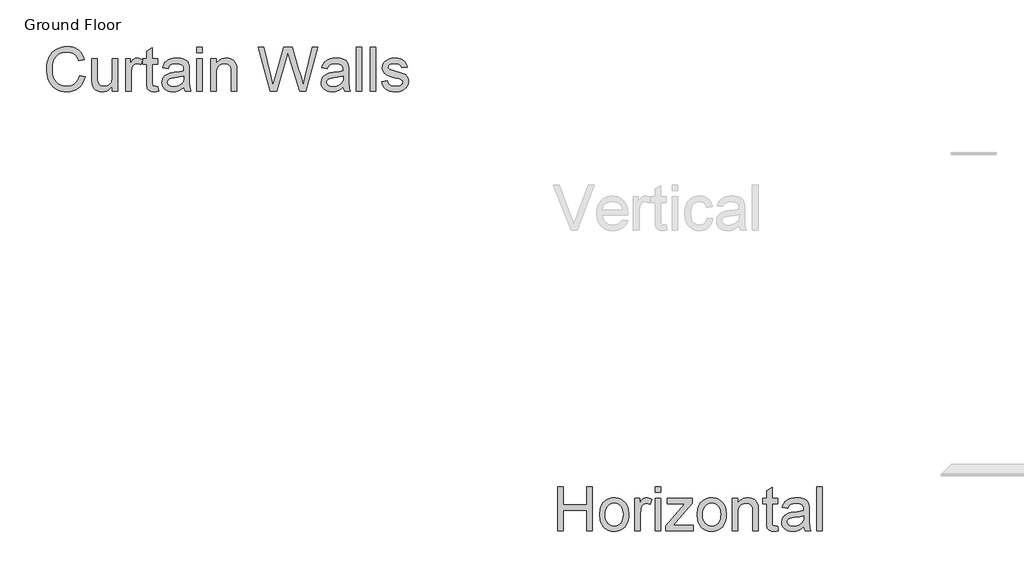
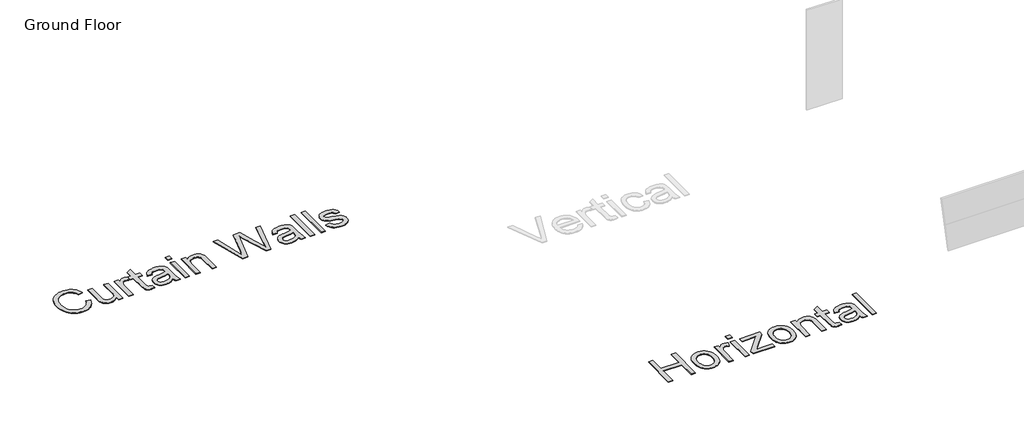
# One storey, part 4 of 9: 2 proxies.
"""IFC4 building model written with IfcOpenShell, lengths in millimetres."""

from ifc_helpers import new_model, si_unit, origin, origin_with_axes, place, context, project, spatial, polyline, outline, extrude, element, save

model = new_model("IFC4")

# Units and contexts
model_context = context("Model", 3, world=origin())
ifc_project = project(units=[si_unit("LENGTHUNIT", "METRE", prefix="MILLI")], contexts=[model_context])

# Site, building, storey
site = spatial("IfcSite", under=ifc_project)
building = spatial("IfcBuilding", under=site)
storey = spatial("IfcBuildingStorey", under=building, Name="Ground Floor", Elevation=0.0)

# Proxies
placement = place(None, origin())
element("IfcBuildingElementProxy", 1, Name="1200mm Arial", ObjectType="1200mm Arial", at=placement, inside=storey, context=model_context, shape_type="SweptSolid", body=[
    extrude(outline(polyline([(-30178.9270845, 12481.7519145), (-30032.0179936, 12443.8769145), (-30061.0877734, 12352.5160303), (-30079.2406942, 12311.1597403), (-30099.8056356, 12272.6862185), (-30122.7825976, 12237.0954647), (-30148.1715802, 12204.3874791), (-30175.9725834, 12174.5622616), (-30206.1856072, 12147.6198122), (-30238.48337, 12123.7125635), (-30272.5385902, 12102.9929479), (-30308.3512677, 12085.4609654), (-30345.9214027, 12071.1166162), (-30385.248995, 12059.9599001), (-30426.3340447, 12051.9908172), (-30469.1765518, 12047.2093674), (-30513.7765163, 12045.6155509), (-30603.3620099, 12050.439592), (-30684.1781498, 12064.9117156), (-30756.2249361, 12089.0319216), (-30819.5023686, 12122.8002099), (-30874.8802095, 12165.71445), (-30923.2282209, 12217.2725111), (-30964.5464027, 12277.4743932), (-30998.8347549, 12346.3200963), (-31025.7615128, 12420.8327028), (-31044.9949112, 12498.0352952), (-31056.5349503, 12577.9278733), (-31060.3816299, 12660.5104372), (-31056.0328196, 12749.1185693), (-31042.9863885, 12831.8804656), (-31021.2423366, 12908.7961261), (-30990.800664, 12979.8655509), (-30952.3428338, 13043.9141126), (-30906.5503089, 13099.7671844), (-30853.4230895, 13147.424766), (-30792.9611754, 13186.8868577), (-30727.2179226, 13217.8306609), (-30658.2466868, 13239.9333776), (-30586.047468, 13253.1950075), (-30510.6202663, 13257.6155509), (-30426.5940767, 13251.8948477), (-30349.5439169, 13234.7327384), (-30313.6348482, 13221.8611563), (-30279.4697869, 13206.1292227), (-30247.0487331, 13187.5369376), (-30216.3716868, 13166.0843009), (-30187.6986798, 13142.0358278), (-30161.2897443, 13115.6560338), (-30137.1448801, 13086.9449187), (-30115.2640873, 13055.9024827), (-30078.2947159, 12986.8236474), (-30050.3816299, 12908.4195281), (-30197.2907209, 12873.4138463), (-30220.4245987, 12931.1857746), (-30248.2211186, 12980.5470139), (-30280.6802805, 13021.4975643), (-30317.8020845, 13054.0374259), (-30359.8017294, 13078.8301283), (-30406.894414, 13096.5392014), (-30459.0801385, 13107.1646453), (-30516.3589027, 13110.7064599), (-30582.2635547, 13106.7790807), (-30642.5371697, 13094.9969429), (-30697.1797478, 13075.3600466), (-30746.191289, 13047.8683918), (-30788.9530966, 13013.7593719), (-30824.8464737, 12974.2703804), (-30853.8714204, 12929.4014173), (-30876.0279368, 12879.1524827), (-30892.4099503, 12825.8010977), (-30904.1113885, 12771.6247838), (-30911.1322514, 12716.6235409), (-30913.472539, 12660.797369), (-30910.7018537, 12590.6425395), (-30902.3897976, 12525.078619), (-30888.5363707, 12464.1056077), (-30869.1415731, 12407.7235054), (-30843.8915731, 12357.0531396), (-30812.472539, 12313.2153378), (-30774.8844709, 12276.2100999), (-30731.1273686, 12246.0374259), (-30683.326321, 12222.6255828), (-30633.6064169, 12205.9028378), (-30581.9676562, 12195.8691908), (-30528.410039, 12192.5246418), (-30464.5408096, 12197.0796844), (-30405.7825532, 12210.7448122), (-30352.1352699, 12233.5200253), (-30303.5989595, 12265.4053236), (-30261.3213494, 12306.2572412), (-30226.4501669, 12355.9323122), (-30198.9854119, 12414.4305366), (-30178.9270845, 12481.7519145)])), origin_with_axes(), (0.0, 0.0, 1.0), 20.0),
    extrude(outline(polyline([(-29297.472539, 12063.9791872), (-29297.472539, 12212.3229372), (-29322.9556711, 12173.2508935), (-29350.6266584, 12139.3884557), (-29380.4855007, 12110.7356236), (-29412.5321981, 12087.2923974), (-29446.7667507, 12069.0587771), (-29483.1891584, 12056.0347625), (-29521.7994211, 12048.2203538), (-29562.597539, 12045.6155509), (-29598.9930469, 12047.4447412), (-29634.1511612, 12052.9323122), (-29668.0718821, 12062.0782639), (-29700.7552095, 12074.8825963), (-29730.7575177, 12090.4486474), (-29756.6351811, 12107.8797554), (-29778.3881996, 12127.1759202), (-29796.0165731, 12148.3371418), (-29810.4259304, 12171.6682852), (-29822.5218998, 12197.4742156), (-29839.7736754, 12256.5104372), (-29846.2296413, 12312.1752099), (-29848.3816299, 12393.0899827), (-29848.3816299, 12927.0700963), (-29701.472539, 12927.0700963), (-29701.472539, 12462.2405509), (-29699.2488174, 12369.2746418), (-29692.5776527, 12312.4621418), (-29683.7813991, 12285.9837149), (-29671.1653657, 12262.5001389), (-29654.7295525, 12242.0114138), (-29634.4739595, 12224.5175395), (-29611.0083167, 12210.5206467), (-29584.9423544, 12200.5228662), (-29556.2760724, 12194.5241979), (-29525.0094709, 12192.5246418), (-29492.8103409, 12194.569031), (-29461.6334055, 12200.7021986), (-29431.4786647, 12210.9241446), (-29402.3461186, 12225.234869), (-29375.813892, 12243.0694749), (-29353.4601101, 12263.8630651), (-29335.2847727, 12287.6156396), (-29321.2878799, 12314.3271986), (-29310.8686683, 12345.7013996), (-29303.4263743, 12383.4419003), (-29298.9609978, 12427.5487007), (-29297.472539, 12478.0218009), (-29297.472539, 12927.0700963), (-29150.5634481, 12927.0700963), (-29150.5634481, 12063.9791872), (-29297.472539, 12063.9791872)])), origin_with_axes(), (0.0, 0.0, 1.0), 20.0),
    extrude(outline(polyline([(-28948.5634481, 12063.9791872), (-28948.5634481, 12927.0700963), (-28820.0179936, 12927.0700963), (-28820.0179936, 12799.3854372), (-28795.8081214, 12840.2014884), (-28772.5307777, 12873.4138463), (-28750.1859623, 12899.0225111), (-28728.7736754, 12917.0274827), (-28707.325522, 12929.455217), (-28684.8731072, 12938.3321702), (-28661.4164311, 12943.658342), (-28636.9554936, 12945.4337327), (-28600.5151527, 12942.600281), (-28563.7878799, 12934.0999259), (-28526.7736754, 12919.9326673), (-28489.472539, 12900.0985054), (-28538.5378799, 12768.3968009), (-28564.3617436, 12781.5777312), (-28590.1856072, 12790.9926815), (-28616.0094709, 12796.6416517), (-28641.8333345, 12798.5246418), (-28664.3485156, 12796.7133847), (-28685.6980362, 12791.2796134), (-28705.8818963, 12782.2233278), (-28724.9000959, 12769.5445281), (-28742.0353054, 12753.6556787), (-28756.5701953, 12734.969244), (-28768.5047656, 12713.4852241), (-28777.8390163, 12689.203619), (-28788.258228, 12649.1048974), (-28795.700522, 12607.141119), (-28801.6543572, 12517.6183918), (-28801.6543572, 12063.9791872), (-28948.5634481, 12063.9791872)])), origin_with_axes(), (0.0, 0.0, 1.0), 20.0),
    extrude(outline(polyline([(-28085.472539, 12186.4990736), (-28067.1089027, 12059.6752099), (-28125.2843288, 12049.1304656), (-28177.003789, 12045.6155509), (-28214.502191, 12047.1398761), (-28247.5172834, 12051.712852), (-28276.049066, 12059.3344784), (-28300.097539, 12070.0047554), (-28320.2903657, 12083.1498193), (-28337.2552095, 12098.1958065), (-28350.9920703, 12115.142717), (-28361.5009481, 12133.9905509), (-28369.2839737, 12159.2584841), (-28374.8432777, 12195.4656929), (-28379.2907209, 12300.6979372), (-28379.2907209, 12780.1610054), (-28489.472539, 12780.1610054), (-28489.472539, 12927.0700963), (-28379.2907209, 12927.0700963), (-28379.2907209, 13136.8172554), (-28232.3816299, 13223.1837327), (-28232.3816299, 12927.0700963), (-28085.472539, 12927.0700963), (-28085.472539, 12780.1610054), (-28232.3816299, 12780.1610054), (-28232.3816299, 12305.0019145), (-28230.4448402, 12256.6539031), (-28224.6344709, 12229.2519145), (-28214.4842578, 12214.0803946), (-28199.5279368, 12202.4237895), (-28178.3308487, 12194.9994287), (-28149.4583345, 12192.5246418), (-28085.472539, 12186.4990736)])), origin_with_axes(), (0.0, 0.0, 1.0), 20.0),
    extrude(outline(polyline([(-27387.6543572, 12174.1610054), (-27422.4896733, 12141.4687114), (-27457.8450532, 12113.9770565), (-27493.7204971, 12091.6860409), (-27530.1160049, 12074.5956645), (-27567.4440412, 12061.9168648), (-27606.1170703, 12052.8605793), (-27646.1350923, 12047.426808), (-27687.4981072, 12045.6155509), (-27752.9095951, 12049.9733278), (-27810.2690589, 12063.0466588), (-27859.5764986, 12084.8355437), (-27900.831914, 12115.3399827), (-27933.407642, 12152.6231858), (-27956.6760192, 12194.7483634), (-27970.6370454, 12241.7155153), (-27975.2907209, 12293.5246418), (-27973.5332635, 12324.6746773), (-27968.2608913, 12354.4259202), (-27959.4736044, 12382.7783705), (-27947.1714027, 12409.7320281), (-27932.0088494, 12434.6950963), (-27914.6405078, 12457.0757781), (-27895.0663778, 12476.8740736), (-27873.2864595, 12494.0899827), (-27824.6873828, 12522.0658349), (-27770.4214027, 12542.2945281), (-27717.5542152, 12553.556602), (-27643.3106072, 12564.3882781), (-27493.1018004, 12587.6297554), (-27435.1057067, 12600.7568861), (-27388.5151527, 12614.8882781), (-27387.6543572, 12647.5985054), (-27390.1829439, 12683.2139173), (-27397.7687038, 12713.1624259), (-27410.4116371, 12737.444031), (-27428.1117436, 12756.0587327), (-27458.7058487, 12774.6375679), (-27495.9711186, 12787.9081645), (-27539.9075532, 12795.8705224), (-27590.5151527, 12798.5246418), (-27637.5719709, 12796.7582178), (-27678.0293572, 12791.4589457), (-27711.8873118, 12782.6268257), (-27739.1458345, 12770.2618577), (-27761.5444496, 12753.3956467), (-27780.8226811, 12731.059798), (-27796.9805291, 12703.2543115), (-27810.0179936, 12669.9791872), (-27956.9270845, 12688.3428236), (-27945.7457102, 12730.6652668), (-27931.4260192, 12768.6837327), (-27913.9680113, 12802.3982213), (-27893.3716868, 12831.8087327), (-27868.7493501, 12857.5070636), (-27839.2133061, 12880.0850111), (-27804.7635547, 12899.542575), (-27765.4000959, 12915.8797554), (-27721.9209588, 12928.8096205), (-27675.1241726, 12938.0452384), (-27625.0097372, 12943.5866091), (-27571.5776527, 12945.4337327), (-27519.3470951, 12943.801808), (-27472.2633771, 12938.9060338), (-27430.3264986, 12930.7464102), (-27393.5364595, 12919.3229372), (-27361.5883949, 12905.4336439), (-27334.1774396, 12889.8765594), (-27311.3035937, 12872.6516837), (-27292.9668572, 12853.7590168), (-27278.1002024, 12832.7322945), (-27265.6366015, 12809.1052526), (-27247.9185618, 12754.0502099), (-27242.5385902, 12703.2632781), (-27240.7452663, 12625.5047554), (-27240.7452663, 12442.7291872), (-27238.8802095, 12283.5178946), (-27233.285039, 12187.5033349), (-27222.238164, 12124.4142014), (-27204.0179936, 12063.9791872), (-27350.9270845, 12063.9791872), (-27363.9824822, 12088.5118577), (-27374.4554936, 12115.0530509), (-27387.6543572, 12174.1610054)]), holes=[polyline([(-27387.6543572, 12467.9791872), (-27432.0570561, 12455.264521), (-27486.3589027, 12443.5182497), (-27624.660039, 12422.9308918), (-27700.8763032, 12411.6688179), (-27751.0535049, 12399.1155509), (-27783.9430646, 12382.8321702), (-27808.2964027, 12360.3797554), (-27823.3603231, 12333.4798974), (-27828.3816299, 12303.8541872), (-27825.6468111, 12281.0251744), (-27817.4423544, 12260.1688179), (-27803.7682599, 12241.2851176), (-27784.6245277, 12224.3740736), (-27760.19049, 12210.4399472), (-27730.6454794, 12200.4869997), (-27695.9894957, 12194.5152312), (-27656.222539, 12192.5246418), (-27615.6216868, 12194.7214635), (-27577.316289, 12201.3119287), (-27541.3063459, 12212.2960374), (-27507.5918572, 12227.6737895), (-27477.1770845, 12246.1719251), (-27451.066289, 12266.5171844), (-27429.2594709, 12288.7095672), (-27411.7566299, 12312.7490736), (-27401.5884836, 12334.2689599), (-27394.325522, 12360.3797554), (-27389.967745, 12391.0814599), (-27388.5151527, 12426.3740736), (-27387.6543572, 12467.9791872)])]), origin_with_axes(), (0.0, 0.0, 1.0), 20.0),
    extrude(outline(polyline([(-27038.7452663, 13092.3428236), (-27038.7452663, 13239.2519145), (-26891.8361754, 13239.2519145), (-26891.8361754, 13092.3428236), (-27038.7452663, 13092.3428236)])), origin_with_axes(), (0.0, 0.0, 1.0), 20.0),
    extrude(outline(polyline([(-27038.7452663, 12063.9791872), (-27038.7452663, 12927.0700963), (-26891.8361754, 12927.0700963), (-26891.8361754, 12063.9791872), (-27038.7452663, 12063.9791872)])), origin_with_axes(), (0.0, 0.0, 1.0), 20.0),
    extrude(outline(polyline([(-26671.472539, 12063.9791872), (-26671.472539, 12927.0700963), (-26524.5634481, 12927.0700963), (-26524.5634481, 12806.5587327), (-26500.3266761, 12839.1075608), (-26473.525451, 12867.3165452), (-26444.1597727, 12891.1856858), (-26412.2296413, 12910.7149827), (-26377.7350568, 12925.9044358), (-26340.6760192, 12936.7540452), (-26301.0525284, 12943.2638108), (-26258.8645845, 12945.4337327), (-26221.895213, 12943.6852419), (-26186.4501669, 12938.4397696), (-26152.529446, 12929.6973158), (-26120.1330504, 12917.4578804), (-26090.4894069, 12902.3760267), (-26064.8269424, 12885.1063179), (-26043.1456569, 12865.648754), (-26025.4455504, 12844.0033349), (-25998.7250248, 12794.256531), (-25981.4015163, 12735.9735054), (-25975.591147, 12680.2369997), (-25973.6543572, 12593.9422554), (-25973.6543572, 12063.9791872), (-26120.5634481, 12063.9791872), (-26120.5634481, 12574.1439599), (-26124.7956924, 12650.1091588), (-26130.0859978, 12679.8604017), (-26137.4924254, 12704.1240736), (-26147.5798721, 12724.558999), (-26160.9132351, 12742.8240026), (-26177.4925142, 12758.9190842), (-26197.3177095, 12772.844244), (-26219.7073579, 12784.079418), (-26243.9799964, 12792.1045423), (-26270.135625, 12796.9196169), (-26298.1742436, 12798.5246418), (-26342.7831747, 12794.9200608), (-26384.2179226, 12784.1063179), (-26422.4784872, 12766.0834131), (-26457.5648686, 12740.8513463), (-26473.2676607, 12724.8145477), (-26486.8767471, 12705.5407994), (-26498.392128, 12683.0301016), (-26507.8138032, 12657.2824543), (-26520.3760369, 12596.0763108), (-26524.5634481, 12521.922369), (-26524.5634481, 12063.9791872), (-26671.472539, 12063.9791872)])), origin_with_axes(), (0.0, 0.0, 1.0), 20.0),
    extrude(outline(polyline([(-25083.878789, 12063.9791872), (-25404.3816299, 13239.2519145), (-25252.8816299, 13239.2519145), (-25066.9498118, 12466.8314599), (-25009.5634481, 12228.391119), (-24948.160039, 12439.2860054), (-24715.1714027, 13239.2519145), (-24496.816289, 13239.2519145), (-24327.5265163, 12659.3627099), (-24288.8803871, 12551.8350111), (-24255.0044993, 12444.1638463), (-24225.898853, 12336.3492156), (-24201.5634481, 12228.391119), (-24145.8986754, 12459.9450963), (-23958.2452663, 13239.2519145), (-23806.7452663, 13239.2519145), (-24127.535039, 12063.9791872), (-24284.4867436, 12063.9791872), (-24566.253789, 12970.6837327), (-24605.5634481, 13097.2206645), (-24649.7509481, 12944.859869), (-24906.5549254, 12063.9791872), (-25083.878789, 12063.9791872)])), origin_with_axes(), (0.0, 0.0, 1.0), 20.0),
    extrude(outline(polyline([(-23127.2907209, 12174.1610054), (-23162.1260369, 12141.4687114), (-23197.4814169, 12113.9770565), (-23233.3568608, 12091.6860409), (-23269.7523686, 12074.5956645), (-23307.0804048, 12061.9168648), (-23345.7534339, 12052.8605793), (-23385.7714559, 12047.426808), (-23427.1344709, 12045.6155509), (-23492.5459588, 12049.9733278), (-23549.9054226, 12063.0466588), (-23599.2128622, 12084.8355437), (-23640.4682777, 12115.3399827), (-23673.0440057, 12152.6231858), (-23696.3123828, 12194.7483634), (-23710.2734091, 12241.7155153), (-23714.9270845, 12293.5246418), (-23713.1696271, 12324.6746773), (-23707.8972549, 12354.4259202), (-23699.109968, 12382.7783705), (-23686.8077663, 12409.7320281), (-23671.645213, 12434.6950963), (-23654.2768714, 12457.0757781), (-23634.7027415, 12476.8740736), (-23612.9228231, 12494.0899827), (-23564.3237464, 12522.0658349), (-23510.0577663, 12542.2945281), (-23457.1905788, 12553.556602), (-23382.9469709, 12564.3882781), (-23232.738164, 12587.6297554), (-23174.7420703, 12600.7568861), (-23128.1515163, 12614.8882781), (-23127.2907209, 12647.5985054), (-23129.8193075, 12683.2139173), (-23137.4050674, 12713.1624259), (-23150.0480007, 12737.444031), (-23167.7481072, 12756.0587327), (-23198.3422123, 12774.6375679), (-23235.6074822, 12787.9081645), (-23279.5439169, 12795.8705224), (-23330.1515163, 12798.5246418), (-23377.2083345, 12796.7582178), (-23417.6657209, 12791.4589457), (-23451.5236754, 12782.6268257), (-23478.7821981, 12770.2618577), (-23501.1808132, 12753.3956467), (-23520.4590447, 12731.059798), (-23536.6168927, 12703.2543115), (-23549.6543572, 12669.9791872), (-23696.5634481, 12688.3428236), (-23685.3820738, 12730.6652668), (-23671.0623828, 12768.6837327), (-23653.604375, 12802.3982213), (-23633.0080504, 12831.8087327), (-23608.3857138, 12857.5070636), (-23578.8496697, 12880.0850111), (-23544.3999183, 12899.542575), (-23505.0364595, 12915.8797554), (-23461.5573224, 12928.8096205), (-23414.7605362, 12938.0452384), (-23364.6461008, 12943.5866091), (-23311.2140163, 12945.4337327), (-23258.9834588, 12943.801808), (-23211.8997407, 12938.9060338), (-23169.9628622, 12930.7464102), (-23133.1728231, 12919.3229372), (-23101.2247585, 12905.4336439), (-23073.8138032, 12889.8765594), (-23050.9399574, 12872.6516837), (-23032.6032209, 12853.7590168), (-23017.736566, 12832.7322945), (-23005.2729652, 12809.1052526), (-22987.5549254, 12754.0502099), (-22982.1749538, 12703.2632781), (-22980.3816299, 12625.5047554), (-22980.3816299, 12442.7291872), (-22978.5165731, 12283.5178946), (-22972.9214027, 12187.5033349), (-22961.8745277, 12124.4142014), (-22943.6543572, 12063.9791872), (-23090.5634481, 12063.9791872), (-23103.6188459, 12088.5118577), (-23114.0918572, 12115.0530509), (-23127.2907209, 12174.1610054)]), holes=[polyline([(-23127.2907209, 12467.9791872), (-23171.6934197, 12455.264521), (-23225.9952663, 12443.5182497), (-23364.2964027, 12422.9308918), (-23440.5126669, 12411.6688179), (-23490.6898686, 12399.1155509), (-23523.5794282, 12382.8321702), (-23547.9327663, 12360.3797554), (-23562.9966868, 12333.4798974), (-23568.0179936, 12303.8541872), (-23565.2831747, 12281.0251744), (-23557.078718, 12260.1688179), (-23543.4046236, 12241.2851176), (-23524.2608913, 12224.3740736), (-23499.8268537, 12210.4399472), (-23470.281843, 12200.4869997), (-23435.6258594, 12194.5152312), (-23395.8589027, 12192.5246418), (-23355.2580504, 12194.7214635), (-23316.9526527, 12201.3119287), (-23280.9427095, 12212.2960374), (-23247.2282209, 12227.6737895), (-23216.8134481, 12246.1719251), (-23190.7026527, 12266.5171844), (-23168.8958345, 12288.7095672), (-23151.3929936, 12312.7490736), (-23141.2248473, 12334.2689599), (-23133.9618856, 12360.3797554), (-23129.6041086, 12391.0814599), (-23128.1515163, 12426.3740736), (-23127.2907209, 12467.9791872)])]), origin_with_axes(), (0.0, 0.0, 1.0), 20.0),
    extrude(outline(polyline([(-22778.3816299, 12063.9791872), (-22778.3816299, 13239.2519145), (-22631.472539, 13239.2519145), (-22631.472539, 12063.9791872), (-22778.3816299, 12063.9791872)])), origin_with_axes(), (0.0, 0.0, 1.0), 20.0),
    extrude(outline(polyline([(-22411.1089027, 12063.9791872), (-22411.1089027, 13239.2519145), (-22264.1998118, 13239.2519145), (-22264.1998118, 12063.9791872), (-22411.1089027, 12063.9791872)])), origin_with_axes(), (0.0, 0.0, 1.0), 20.0),
    extrude(outline(polyline([(-22098.9270845, 12321.0700963), (-21952.0179936, 12339.4337327), (-21943.1410405, 12305.9344429), (-21928.8482493, 12276.5956645), (-21909.13962, 12251.4173974), (-21884.0151527, 12230.3996418), (-21853.4031143, 12213.8293293), (-21817.231772, 12201.9933918), (-21775.5011257, 12194.8918293), (-21728.2111754, 12192.5246418), (-21680.9750248, 12194.6945636), (-21640.2665731, 12201.2043293), (-21606.0858203, 12212.0539386), (-21578.4327663, 12227.2433918), (-21557.0922123, 12245.3559628), (-21541.8489595, 12264.9749259), (-21532.7030078, 12286.100281), (-21529.6543572, 12308.7320281), (-21532.720941, 12328.5661901), (-21541.9206924, 12346.1766304), (-21557.2536115, 12361.5633491), (-21578.7196981, 12374.7263463), (-21633.7388743, 12393.3769145), (-21729.9327663, 12416.6183918), (-21864.0016584, 12455.3900537), (-21951.1571981, 12488.4948122), (-21981.0788068, 12505.0920246), (-22007.1447692, 12524.6123548), (-22029.3550852, 12547.055803), (-22047.7097549, 12572.422369), (-22062.0832457, 12599.9498903), (-22072.3500248, 12628.8762043), (-22078.5100923, 12659.2013108), (-22080.5634481, 12690.9252099), (-22078.9135902, 12719.9322234), (-22073.9640163, 12747.8453094), (-22065.7147265, 12774.6644678), (-22054.1657209, 12800.3896986), (-22039.7653302, 12824.5009379), (-22022.9618856, 12846.4781219), (-22003.7553871, 12866.3212504), (-21982.1458345, 12884.0303236), (-21941.5808487, 12907.6663321), (-21888.7495277, 12927.500494), (-21827.6689169, 12940.950423), (-21762.3560618, 12945.4337327), (-21712.9858558, 12943.6314422), (-21666.7360334, 12938.2245707), (-21623.6065944, 12929.2131183), (-21583.597539, 12916.5970849), (-21547.6593288, 12900.9055011), (-21516.7424254, 12882.6673974), (-21490.8468288, 12861.8827739), (-21469.972539, 12838.5516304), (-21453.0435618, 12811.8580047), (-21438.9839027, 12780.9859344), (-21427.7935618, 12745.9354195), (-21419.472539, 12706.7064599), (-21566.3816299, 12688.3428236), (-21573.3845596, 12712.8844607), (-21584.9245987, 12734.5747128), (-21601.0017471, 12753.41358), (-21621.6160049, 12769.4010622), (-21646.8570383, 12782.1426283), (-21676.8145135, 12791.2437469), (-21711.4884304, 12796.704418), (-21750.878789, 12798.5246418), (-21796.5726811, 12796.7851176), (-21835.2367436, 12791.5665452), (-21866.8709765, 12782.8689244), (-21891.4753799, 12770.6922554), (-21909.9286825, 12756.2021986), (-21923.1096129, 12740.5644145), (-21931.0181711, 12723.7789031), (-21933.6543572, 12705.8456645), (-21929.278647, 12683.2497838), (-21916.1515163, 12663.0928236), (-21893.6991015, 12645.087852), (-21861.347539, 12630.6695281), (-21734.8106072, 12599.3939599), (-21605.009826, 12561.0168293), (-21519.1813459, 12530.2433918), (-21488.981772, 12515.233271), (-21462.2253799, 12497.1744997), (-21438.9121697, 12476.0670778), (-21419.0421413, 12451.9110054), (-21403.1622585, 12424.6704159), (-21391.8194851, 12394.3094429), (-21385.013821, 12360.8280864), (-21382.7452663, 12324.2263463), (-21385.4083522, 12287.4632071), (-21393.3976101, 12251.7760622), (-21406.7130397, 12217.1649116), (-21425.3546413, 12183.6297554), (-21449.0175497, 12152.5066197), (-21477.3968998, 12125.131531), (-21510.4926917, 12101.5044891), (-21548.3049254, 12081.625494), (-21589.8024396, 12065.8711439), (-21633.9540731, 12054.6180366), (-21680.759826, 12047.8661723), (-21730.2196981, 12045.6155509), (-21809.2873473, 12049.9553946), (-21878.3482493, 12062.9749259), (-21937.4024041, 12084.6741446), (-21986.4498118, 12115.0530509), (-22026.5126669, 12153.9681787), (-22058.613164, 12201.2760622), (-22082.7513032, 12256.9767014), (-22098.9270845, 12321.0700963)])), origin_with_axes(), (0.0, 0.0, 1.0), 20.0),
])
element("IfcBuildingElementProxy", 2, Name="1200mm Arial", ObjectType="1200mm Arial", at=placement, inside=storey, context=model_context, shape_type="SweptSolid", body=[
    extrude(outline(polyline([(-17389.6614443, 299.4047843), (-17389.6614443, 1474.6775116), (-17242.7523534, 1474.6775116), (-17242.7523534, 997.2229661), (-16618.3887171, 997.2229661), (-16618.3887171, 1474.6775116), (-16471.4796262, 1474.6775116), (-16471.4796262, 299.4047843), (-16618.3887171, 299.4047843), (-16618.3887171, 850.3138752), (-17242.7523534, 850.3138752), (-17242.7523534, 299.4047843), (-17389.6614443, 299.4047843)])), origin_with_axes(), (0.0, 0.0, 1.0), 20.0),
    extrude(outline(polyline([(-16269.4796262, 730.9502389), (-16267.49352, 788.7714835), (-16261.5352014, 842.7281153), (-16251.6046706, 892.8201341), (-16237.7019273, 939.04754), (-16219.8269717, 981.410333), (-16197.9798037, 1019.908513), (-16172.1604234, 1054.5420801), (-16142.3688307, 1085.3110343), (-16115.1013414, 1107.7051661), (-16086.3812597, 1127.1134136), (-16056.2085857, 1143.5357769), (-16024.5833193, 1156.9722559), (-15991.5054607, 1167.4228507), (-15956.9750097, 1174.8875613), (-15883.5563307, 1180.8593298), (-15842.0610582, 1179.0413477), (-15802.5070587, 1173.5874015), (-15764.8943323, 1164.4974912), (-15729.222879, 1151.7716167), (-15695.4926988, 1135.4097781), (-15663.7037916, 1115.4119754), (-15633.8561576, 1091.7782085), (-15605.9497966, 1064.5084775), (-15580.697555, 1034.0331801), (-15558.8122789, 1000.782714), (-15540.2939683, 964.7570792), (-15525.1426233, 925.9562758), (-15513.3582439, 884.3803037), (-15504.94083, 840.0291629), (-15499.8903817, 792.9028534), (-15498.2068989, 743.0013752), (-15501.1838165, 664.3641238), (-15510.1145693, 594.5858923), (-15524.9991574, 533.6666806), (-15545.8375807, 481.6064889), (-15572.3698073, 436.638893), (-15604.3358051, 396.997469), (-15641.7355743, 362.6822168), (-15684.5691148, 333.6931366), (-15731.1686354, 310.6578916), (-15779.8663449, 294.2041451), (-15830.6622433, 284.3318972), (-15883.5563307, 281.041148), (-15925.7061665, 282.8524051), (-15965.7891965, 288.2861764), (-16003.8054207, 297.3424619), (-16039.7548392, 310.0212616), (-16073.637452, 326.3225755), (-16105.453259, 346.2464036), (-16135.2022602, 369.792746), (-16162.8844557, 396.9616025), (-16187.8676988, 427.5377744), (-16209.5198428, 461.3060627), (-16227.8408877, 498.2664676), (-16242.8308335, 538.4189889), (-16254.4896803, 581.7636266), (-16262.817428, 628.3003809), (-16267.8140766, 678.0292516), (-16269.4796262, 730.9502389)]), holes=[polyline([(-16122.5705353, 731.2371707), (-16118.3203577, 659.979447), (-16105.569825, 598.2801394), (-16084.3189372, 546.1392481), (-16054.5676943, 503.556773), (-16018.3784188, 470.4789143), (-15977.813433, 446.8518724), (-15932.872737, 432.6756472), (-15883.5563307, 427.9502389), (-15834.4909898, 432.7025471), (-15789.7296262, 446.9594718), (-15749.2722398, 470.721013), (-15713.1188307, 503.9871707), (-15683.3675878, 546.9910769), (-15662.1167, 599.9658639), (-15649.3661674, 662.9115315), (-15645.1159898, 735.8280798), (-15649.3930672, 804.8262154), (-15662.2242995, 864.9115315), (-15683.6096865, 916.0840279), (-15713.5492284, 958.3437048), (-15749.8371368, 991.4215634), (-15790.2676233, 1015.0486053), (-15834.840688, 1029.2248305), (-15883.5563307, 1033.9502389), (-15932.872737, 1029.2427637), (-15977.813433, 1015.1203383), (-16018.3784188, 991.5829626), (-16054.5676943, 958.6306366), (-16084.3189372, 916.1736941), (-16105.569825, 864.122469), (-16118.3203577, 802.4769612), (-16122.5705353, 731.2371707)])]), origin_with_axes(), (0.0, 0.0, 1.0), 20.0),
    extrude(outline(polyline([(-15332.9341716, 299.4047843), (-15332.9341716, 1162.4956934), (-15204.3887171, 1162.4956934), (-15204.3887171, 1034.8110343), (-15180.1788449, 1075.6270855), (-15156.9015012, 1108.8394434), (-15134.5566858, 1134.4481082), (-15113.1443989, 1152.4530798), (-15091.6962455, 1164.8808141), (-15069.2438307, 1173.7577673), (-15045.7871546, 1179.0839391), (-15021.3262171, 1180.8593298), (-14984.8858762, 1178.0258781), (-14948.1586034, 1169.525523), (-14911.1443989, 1155.3582644), (-14873.8432625, 1135.5241025), (-14922.9086034, 1003.822398), (-14948.7324671, 1017.0033284), (-14974.5563307, 1026.4182786), (-15000.3801943, 1032.0672488), (-15026.204058, 1033.9502389), (-15048.7192391, 1032.1389818), (-15070.0687597, 1026.7052105), (-15090.2526198, 1017.6489249), (-15109.2708193, 1004.9701252), (-15126.4060289, 989.0812758), (-15140.9409188, 970.3948411), (-15152.8754891, 948.9108212), (-15162.2097398, 924.6292161), (-15172.6289514, 884.5304945), (-15180.0712455, 842.5667161), (-15186.0250807, 753.0439889), (-15186.0250807, 299.4047843), (-15332.9341716, 299.4047843)])), origin_with_axes(), (0.0, 0.0, 1.0), 20.0),
    extrude(outline(polyline([(-14782.0250807, 299.4047843), (-14782.0250807, 1162.4956934), (-14635.1159898, 1162.4956934), (-14635.1159898, 299.4047843), (-14782.0250807, 299.4047843)])), origin_with_axes(), (0.0, 0.0, 1.0), 20.0),
    extrude(outline(polyline([(-14782.0250807, 1327.7684207), (-14782.0250807, 1474.6775116), (-14635.1159898, 1474.6775116), (-14635.1159898, 1327.7684207), (-14782.0250807, 1327.7684207)])), origin_with_axes(), (0.0, 0.0, 1.0), 20.0),
    extrude(outline(polyline([(-14506.5705353, 299.4047843), (-14506.5705353, 437.7059207), (-13999.5620125, 1015.5866025), (-14149.6273534, 1015.5866025), (-14469.8432625, 1015.5866025), (-14469.8432625, 1162.4956934), (-13790.3887171, 1162.4956934), (-13790.3887171, 1037.6803525), (-14240.0108762, 524.9331934), (-14308.8745125, 446.3138752), (-14139.0108762, 446.3138752), (-13772.0250807, 446.3138752), (-13772.0250807, 299.4047843), (-14506.5705353, 299.4047843)])), origin_with_axes(), (0.0, 0.0, 1.0), 20.0),
    extrude(outline(polyline([(-13661.8432625, 730.9502389), (-13659.8571563, 788.7714835), (-13653.8988378, 842.7281153), (-13643.9683069, 892.8201341), (-13630.0655637, 939.04754), (-13612.1906081, 981.410333), (-13590.3434401, 1019.908513), (-13564.5240598, 1054.5420801), (-13534.7324671, 1085.3110343), (-13507.4649777, 1107.7051661), (-13478.744896, 1127.1134136), (-13448.572222, 1143.5357769), (-13416.9469557, 1156.9722559), (-13383.869097, 1167.4228507), (-13349.338646, 1174.8875613), (-13275.9199671, 1180.8593298), (-13234.4246945, 1179.0413477), (-13194.8706951, 1173.5874015), (-13157.2579687, 1164.4974912), (-13121.5865154, 1151.7716167), (-13087.8563351, 1135.4097781), (-13056.067428, 1115.4119754), (-13026.219794, 1091.7782085), (-12998.313433, 1064.5084775), (-12973.0611913, 1034.0331801), (-12951.1759152, 1000.782714), (-12932.6576047, 964.7570792), (-12917.5062597, 925.9562758), (-12905.7218802, 884.3803037), (-12897.3044664, 840.0291629), (-12892.254018, 792.9028534), (-12890.5705353, 743.0013752), (-12893.5474529, 664.3641238), (-12902.4782057, 594.5858923), (-12917.3627938, 533.6666806), (-12938.2012171, 481.6064889), (-12964.7334436, 436.638893), (-12996.6994415, 396.997469), (-13034.0992107, 362.6822168), (-13076.9327512, 333.6931366), (-13123.5322718, 310.6578916), (-13172.2299813, 294.2041451), (-13223.0258797, 284.3318972), (-13275.9199671, 281.041148), (-13318.0698028, 282.8524051), (-13358.1528328, 288.2861764), (-13396.1690571, 297.3424619), (-13432.1184756, 310.0212616), (-13466.0010883, 326.3225755), (-13497.8168953, 346.2464036), (-13527.5658966, 369.792746), (-13555.2480921, 396.9616025), (-13580.2313351, 427.5377744), (-13601.8834791, 461.3060627), (-13620.2045241, 498.2664676), (-13635.1944699, 538.4189889), (-13646.8533167, 581.7636266), (-13655.1810644, 628.3003809), (-13660.177713, 678.0292516), (-13661.8432625, 730.9502389)]), holes=[polyline([(-13514.9341716, 731.2371707), (-13510.6839941, 659.979447), (-13497.9334614, 598.2801394), (-13476.6825736, 546.1392481), (-13446.9313307, 503.556773), (-13410.7420551, 470.4789143), (-13370.1770693, 446.8518724), (-13325.2363733, 432.6756472), (-13275.9199671, 427.9502389), (-13226.8546262, 432.7025471), (-13182.0932625, 446.9594718), (-13141.6358762, 470.721013), (-13105.4824671, 503.9871707), (-13075.7312242, 546.9910769), (-13054.4803364, 599.9658639), (-13041.7298037, 662.9115315), (-13037.4796262, 735.8280798), (-13041.7567036, 804.8262154), (-13054.5879358, 864.9115315), (-13075.9733229, 916.0840279), (-13105.9128648, 958.3437048), (-13142.2007732, 991.4215634), (-13182.6312597, 1015.0486053), (-13227.2043243, 1029.2248305), (-13275.9199671, 1033.9502389), (-13325.2363733, 1029.2427637), (-13370.1770693, 1015.1203383), (-13410.7420551, 991.5829626), (-13446.9313307, 958.6306366), (-13476.6825736, 916.1736941), (-13497.9334614, 864.122469), (-13510.6839941, 802.4769612), (-13514.9341716, 731.2371707)])]), origin_with_axes(), (0.0, 0.0, 1.0), 20.0),
    extrude(outline(polyline([(-12725.297808, 299.4047843), (-12725.297808, 1162.4956934), (-12578.3887171, 1162.4956934), (-12578.3887171, 1041.9843298), (-12554.1519451, 1074.5331579), (-12527.3507199, 1102.7421423), (-12497.9850416, 1126.6112829), (-12466.0549103, 1146.1405798), (-12431.5603257, 1161.3300329), (-12394.5012881, 1172.1796423), (-12354.8777973, 1178.6894079), (-12312.6898534, 1180.8593298), (-12275.720482, 1179.110839), (-12240.2754358, 1173.8653667), (-12206.3547149, 1165.1229129), (-12173.9583193, 1152.8834775), (-12144.3146759, 1137.8016238), (-12118.6522114, 1120.531915), (-12096.9709259, 1101.0743511), (-12079.2708193, 1079.428932), (-12052.5502938, 1029.6821281), (-12035.2267853, 971.3991025), (-12029.4164159, 915.6625968), (-12027.4796262, 829.3678525), (-12027.4796262, 299.4047843), (-12174.3887171, 299.4047843), (-12174.3887171, 809.569557), (-12178.6209614, 885.5347559), (-12183.9112668, 915.2859988), (-12191.3176943, 939.5496707), (-12201.4051411, 959.9845961), (-12214.738504, 978.2495997), (-12231.3177831, 994.3446813), (-12251.1429784, 1008.2698411), (-12273.5326269, 1019.5050151), (-12297.8052654, 1027.5301394), (-12323.9608939, 1032.345214), (-12351.9995125, 1033.9502389), (-12396.6084436, 1030.3456579), (-12438.0431915, 1019.531915), (-12476.3037561, 1001.5090102), (-12511.3901375, 976.2769434), (-12527.0929296, 960.2401448), (-12540.7020161, 940.9663965), (-12552.2173969, 918.4556987), (-12561.6390722, 892.7080514), (-12574.2013058, 831.5019079), (-12578.3887171, 757.3479661), (-12578.3887171, 299.4047843), (-12725.297808, 299.4047843)])), origin_with_axes(), (0.0, 0.0, 1.0), 20.0),
    extrude(outline(polyline([(-11513.297808, 421.9246707), (-11494.9341716, 295.100807), (-11553.1095978, 284.5560627), (-11604.829058, 281.041148), (-11642.32746, 282.5654732), (-11675.3425523, 287.1384491), (-11703.874335, 294.7600755), (-11727.922808, 305.4303525), (-11748.1156347, 318.5754164), (-11765.0804784, 333.6214036), (-11778.8173392, 350.5683141), (-11789.3262171, 369.416148), (-11797.1092426, 394.6840812), (-11802.6685466, 430.89129), (-11807.1159898, 536.1235343), (-11807.1159898, 1015.5866025), (-11917.297808, 1015.5866025), (-11917.297808, 1162.4956934), (-11807.1159898, 1162.4956934), (-11807.1159898, 1372.2428525), (-11660.2068989, 1458.6093298), (-11660.2068989, 1162.4956934), (-11513.297808, 1162.4956934), (-11513.297808, 1015.5866025), (-11660.2068989, 1015.5866025), (-11660.2068989, 540.4275116), (-11658.2701091, 492.0795002), (-11652.4597398, 464.6775116), (-11642.3095267, 449.5059917), (-11627.3532057, 437.8493866), (-11606.1561176, 430.4250258), (-11577.2836034, 427.9502389), (-11513.297808, 421.9246707)])), origin_with_axes(), (0.0, 0.0, 1.0), 20.0),
    extrude(outline(polyline([(-10815.4796262, 409.5866025), (-10850.3149422, 376.8943085), (-10885.6703222, 349.4026536), (-10921.5457661, 327.111638), (-10957.9412739, 310.0212616), (-10995.2693101, 297.3424619), (-11033.9423392, 288.2861764), (-11073.9603612, 282.8524051), (-11115.3233762, 281.041148), (-11180.7348641, 285.3989249), (-11238.0943279, 298.4722559), (-11287.4017675, 320.2611409), (-11328.657183, 350.7655798), (-11361.232911, 388.0487829), (-11384.5012881, 430.1739605), (-11398.4623144, 477.1411124), (-11403.1159898, 528.9502389), (-11401.3585324, 560.1002744), (-11396.0861603, 589.8515173), (-11387.2988733, 618.2039676), (-11374.9966716, 645.1576252), (-11359.8341183, 670.1206934), (-11342.4657767, 692.5013752), (-11322.8916468, 712.2996707), (-11301.1117284, 729.5155798), (-11252.5126517, 757.491432), (-11198.2466716, 777.7201252), (-11145.3794841, 788.9821991), (-11071.1358762, 799.8138752), (-10920.9270693, 823.0553525), (-10862.9309756, 836.1824832), (-10816.3404216, 850.3138752), (-10815.4796262, 883.0241025), (-10818.0082128, 918.6395144), (-10825.5939728, 948.588023), (-10838.236906, 972.8696281), (-10855.9370125, 991.4843298), (-10886.5311176, 1010.063165), (-10923.7963875, 1023.3337616), (-10967.7328222, 1031.2961195), (-11018.3404216, 1033.9502389), (-11065.3972398, 1032.1838149), (-11105.8546262, 1026.8845428), (-11139.7125807, 1018.0524228), (-11166.9711034, 1005.6874548), (-11189.3697185, 988.8212438), (-11208.64795, 966.4853951), (-11224.805798, 938.6799086), (-11237.8432625, 905.4047843), (-11384.7523534, 923.7684207), (-11373.5709791, 966.0908639), (-11359.2512881, 1004.1093298), (-11341.7932803, 1037.8238184), (-11321.1969557, 1067.2343298), (-11296.5746191, 1092.9326607), (-11267.038575, 1115.5106082), (-11232.5888236, 1134.9681721), (-11193.2253648, 1151.3053525), (-11149.7462277, 1164.2352176), (-11102.9494415, 1173.4708355), (-11052.8350061, 1179.0122062), (-10999.4029216, 1180.8593298), (-10947.1723641, 1179.2274051), (-10900.088646, 1174.3316309), (-10858.1517675, 1166.1720073), (-10821.3617284, 1154.7485343), (-10789.4136638, 1140.859241), (-10762.0027085, 1125.3021565), (-10739.1288627, 1108.0772808), (-10720.7921262, 1089.1846139), (-10705.9254713, 1068.1578916), (-10693.4618705, 1044.5308497), (-10675.7438307, 989.475807), (-10670.3638591, 938.6888752), (-10668.5705353, 860.9303525), (-10668.5705353, 678.1547843), (-10666.7054784, 518.9434917), (-10661.110308, 422.928932), (-10650.063433, 359.8397985), (-10631.8432625, 299.4047843), (-10778.7523534, 299.4047843), (-10791.8077512, 323.9374548), (-10802.2807625, 350.478648), (-10815.4796262, 409.5866025)]), holes=[polyline([(-10815.4796262, 703.4047843), (-10859.882325, 690.6901181), (-10914.1841716, 678.9438468), (-11052.485308, 658.3564889), (-11128.7015722, 647.094415), (-11178.8787739, 634.541148), (-11211.7683335, 618.2577673), (-11236.1216716, 595.8053525), (-11251.1855921, 568.9054945), (-11256.2068989, 539.2797843), (-11253.47208, 516.4507715), (-11245.2676233, 495.594415), (-11231.5935289, 476.7107147), (-11212.4497966, 459.7996707), (-11188.015759, 445.8655443), (-11158.4707483, 435.9125968), (-11123.8147647, 429.9408284), (-11084.047808, 427.9502389), (-11043.4469557, 430.1470606), (-11005.141558, 436.7375258), (-10969.1316148, 447.7216345), (-10935.4171262, 463.0993866), (-10905.0023534, 481.5975222), (-10878.891558, 501.9427815), (-10857.0847398, 524.1351643), (-10839.5818989, 548.1746707), (-10829.4137526, 569.694557), (-10822.1507909, 595.8053525), (-10817.7930139, 626.507057), (-10816.3404216, 661.7996707), (-10815.4796262, 703.4047843)])]), origin_with_axes(), (0.0, 0.0, 1.0), 20.0),
    extrude(outline(polyline([(-10466.5705353, 299.4047843), (-10466.5705353, 1474.6775116), (-10319.6614443, 1474.6775116), (-10319.6614443, 299.4047843), (-10466.5705353, 299.4047843)])), origin_with_axes(), (0.0, 0.0, 1.0), 20.0),
])

save(model, "model.ifc")
